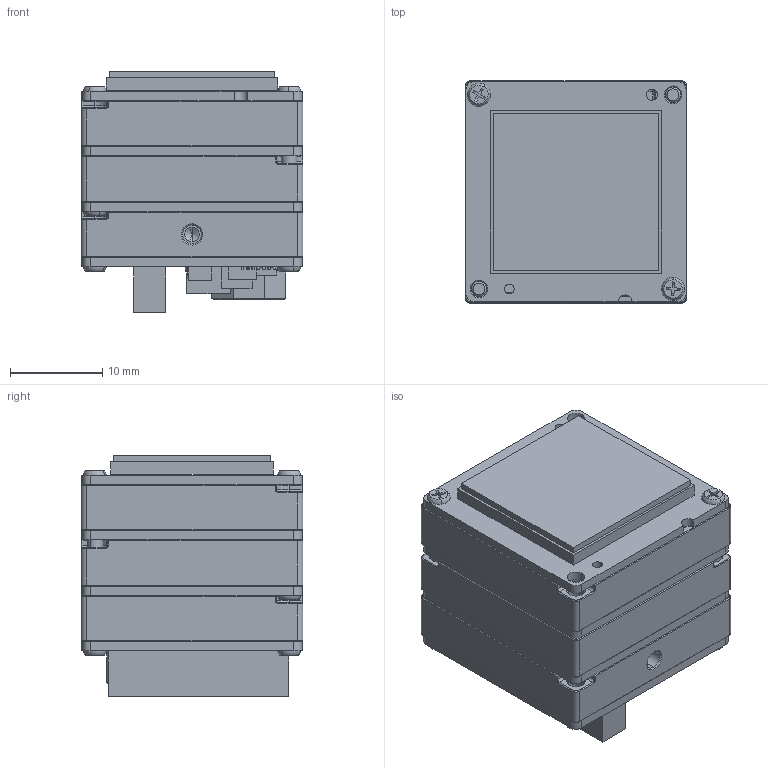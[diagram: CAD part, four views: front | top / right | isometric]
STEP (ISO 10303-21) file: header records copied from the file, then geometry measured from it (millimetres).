
FILE_DESCRIPTION (( 'STEP AP203' ), '1' );
FILE_NAME ('305-585-B_FFC.STEP', '2023-08-03T22:45:00', ( '' ), ( '' ), 'SwSTEP 2.0', 'SolidWorks 2021', '' );
FILE_SCHEMA (( 'CONFIG_CONTROL_DESIGN' ));
Length unit declared in the file: millimetre
Products named in the file (1): 305-585-B_FFC
Bounding box: 24 x 24 x 26.09 mm (x, y, z)
Volume: 5295.8 mm3; surface area: 11589.7 mm2
Topology: 5 solids, 14 shells, 3425 faces, 9031 edges, 5494 vertices
Faces by surface type: plane 1988, cylinder 808, bspline 275, cone 197, torus 93, sphere 64
Entity records: 109276 total; most frequent: CARTESIAN_POINT 26610, ORIENTED_EDGE 17734, DIRECTION 16449, EDGE_CURVE 8867, VECTOR 6251, LINE 6251, VERTEX_POINT 5490, AXIS2_PLACEMENT_3D 5099
